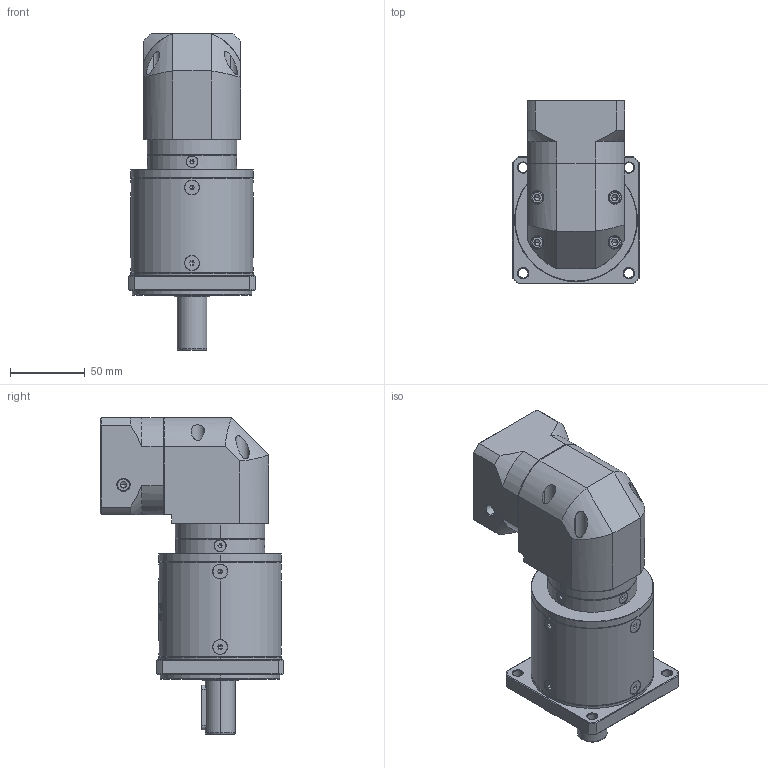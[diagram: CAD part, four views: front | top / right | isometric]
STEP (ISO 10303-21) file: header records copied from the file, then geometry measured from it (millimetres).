
FILE_DESCRIPTION (( 'STEP AP214' ), '1' );
FILE_NAME ('ZFR080-D20-L3-P2-14-60-75-M5.step', '2023-08-25T07:19:49', ( '' ), ( '' ), 'SwSTEP 2.0', 'SolidWorks 2016', '' );
FILE_SCHEMA (( 'AUTOMOTIVE_DESIGN' ));
Length unit declared in the file: millimetre
Products named in the file (1): ZFR080-D20-L3-P2-14-60-75-M5
Bounding box: 85 x 122.7 x 212 mm (x, y, z)
Volume: 902778.8 mm3; surface area: 108497.5 mm2
Topology: 17 solids, 18 shells, 2449 faces, 6413 edges, 4079 vertices
Faces by surface type: plane 1176, cylinder 450, bspline 394, cone 381, torus 48
Entity records: 127171 total; most frequent: CARTESIAN_POINT 44741, ORIENTED_EDGE 12734, DIRECTION 9887, EDGE_CURVE 6367, VERTEX_POINT 4079, LINE 3375, VECTOR 3375, AXIS2_PLACEMENT_3D 3256
